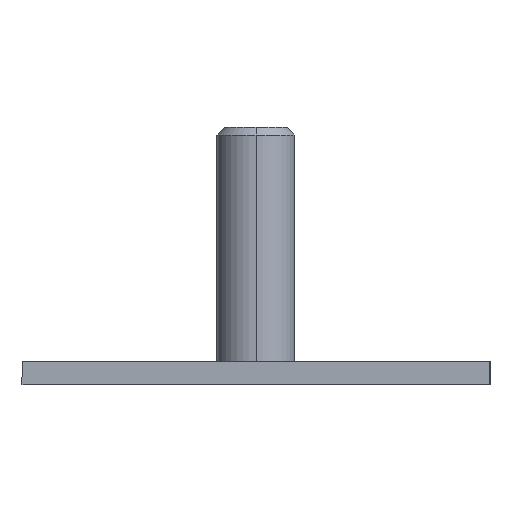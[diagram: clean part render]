
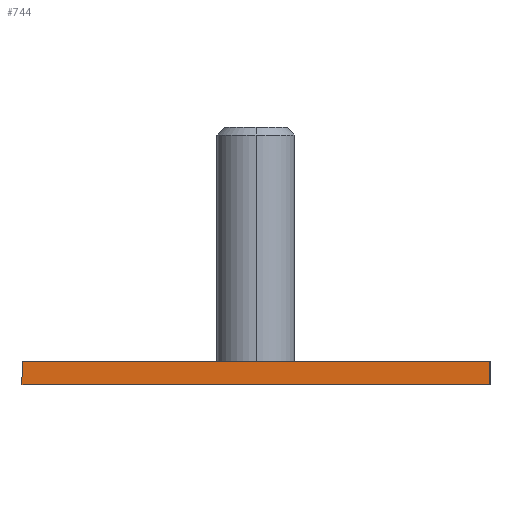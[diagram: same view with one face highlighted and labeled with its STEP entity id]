
A CAD part, left-side view. The second image highlights one B-rep face of the part: STEP entity #744.
In plain terms, the highlighted planar face has unit normal (-1, 0, 0).
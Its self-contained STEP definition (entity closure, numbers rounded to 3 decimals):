
#8 = DIRECTION ( 'NONE',  ( 0., 0., 1. ) ) ;
#261 = EDGE_CURVE ( 'NONE', #2458, #2430, #2077, .T. ) ;
#309 = CARTESIAN_POINT ( 'NONE',  ( 0., 60., 0. ) ) ;
#360 = PLANE ( 'NONE',  #1572 ) ;
#491 = ORIENTED_EDGE ( 'NONE', *, *, #1415, .T. ) ;
#554 = EDGE_CURVE ( 'NONE', #1194, #2458, #1178, .T. ) ;
#556 = CARTESIAN_POINT ( 'NONE',  ( 0., 0., 0. ) ) ;
#700 = ORIENTED_EDGE ( 'NONE', *, *, #969, .F. ) ;
#732 = CARTESIAN_POINT ( 'NONE',  ( 0., 0., 0. ) ) ;
#742 = DIRECTION ( 'NONE',  ( 0., 0., 1. ) ) ;
#744 = ADVANCED_FACE ( 'NONE', ( #2104 ), #360, .T. ) ;
#849 = ORIENTED_EDGE ( 'NONE', *, *, #261, .F. ) ;
#944 = CARTESIAN_POINT ( 'NONE',  ( 0., 30., 3. ) ) ;
#969 = EDGE_CURVE ( 'NONE', #1833, #1194, #1693, .T. ) ;
#992 = CARTESIAN_POINT ( 'NONE',  ( 0., 0., 0. ) ) ;
#1062 = CARTESIAN_POINT ( 'NONE',  ( 0., 0., 0. ) ) ;
#1113 = CARTESIAN_POINT ( 'NONE',  ( 0., 60., 3. ) ) ;
#1114 = VECTOR ( 'NONE', #2029, 1000. ) ;
#1178 = LINE ( 'NONE', #944, #1792 ) ;
#1194 = VERTEX_POINT ( 'NONE', #1113 ) ;
#1316 = DIRECTION ( 'NONE',  ( 0., -1., 0. ) ) ;
#1415 = EDGE_CURVE ( 'NONE', #1833, #2430, #1963, .T. ) ;
#1545 = CARTESIAN_POINT ( 'NONE',  ( 0., 0., 3. ) ) ;
#1572 = AXIS2_PLACEMENT_3D ( 'NONE', #556, #1987, #742 ) ;
#1693 = LINE ( 'NONE', #2194, #2284 ) ;
#1776 = DIRECTION ( 'NONE',  ( 0., -1., 0. ) ) ;
#1792 = VECTOR ( 'NONE', #1316, 1000. ) ;
#1833 = VERTEX_POINT ( 'NONE', #309 ) ;
#1963 = LINE ( 'NONE', #992, #2147 ) ;
#1987 = DIRECTION ( 'NONE',  ( -1., 0., 0. ) ) ;
#2029 = DIRECTION ( 'NONE',  ( 0., 0., -1. ) ) ;
#2077 = LINE ( 'NONE', #1062, #1114 ) ;
#2104 = FACE_OUTER_BOUND ( 'NONE', #2295, .T. ) ;
#2147 = VECTOR ( 'NONE', #1776, 1000. ) ;
#2194 = CARTESIAN_POINT ( 'NONE',  ( 0., 60., 0. ) ) ;
#2284 = VECTOR ( 'NONE', #8, 1000. ) ;
#2295 = EDGE_LOOP ( 'NONE', ( #491, #849, #2541, #700 ) ) ;
#2430 = VERTEX_POINT ( 'NONE', #732 ) ;
#2458 = VERTEX_POINT ( 'NONE', #1545 ) ;
#2541 = ORIENTED_EDGE ( 'NONE', *, *, #554, .F. ) ;
